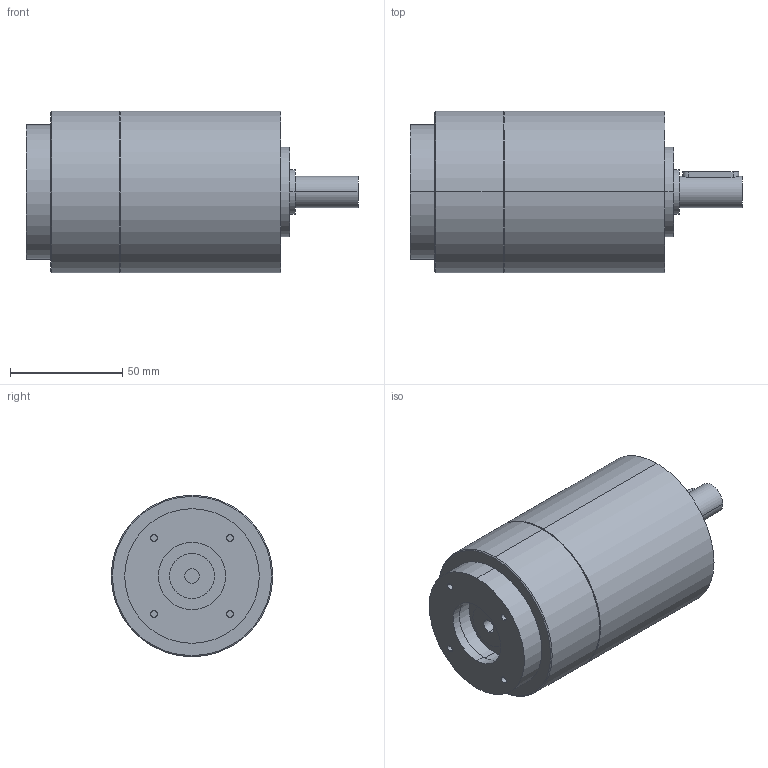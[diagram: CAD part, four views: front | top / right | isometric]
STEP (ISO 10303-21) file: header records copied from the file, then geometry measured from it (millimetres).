
FILE_DESCRIPTION(('CoCreate Modeling STEP Export'),'2;1');
FILE_NAME('GPT75_ig-9-12-16-20-25-28-35-40-50-70-100_14_B14T_6.35_P29.stp','2014-08-27T13:19:36',(''),(''),'CoCreate Modeling STEP processor for AP214 (Solid Model)','CoCreate Modeling 16.00C 25-Feb-2009 (C) Parametric Technology GmbH','');
FILE_SCHEMA(('AUTOMOTIVE_DESIGN { 1 0 10303 214 1 1 1 1 }'));
Length unit declared in the file: millimetre
Products named in the file (2): GPT75_ig-9-12-16-20-25-28-35-40-50-70-100_14_B14T_6.35_P29
Assembly tree (1 placements, depth 2):
  GPT75_ig-9-12-16-20-25-28-35-40-50-70-100_14_B14T_6.35_P29
    GPT75_ig-9-12-16-20-25-28-35-40-50-70-100_14_B14T_6.35_P29
Bounding box: 148 x 72 x 72 mm (x, y, z)
Volume: 449050.5 mm3; surface area: 38880.3 mm2
Topology: 1 solids, 1 shells, 67 faces, 149 edges, 102 vertices
Faces by surface type: cylinder 40, plane 23, cone 4
Entity records: 1948 total; most frequent: CARTESIAN_POINT 625, ORIENTED_EDGE 298, DIRECTION 220, EDGE_CURVE 149, VERTEX_POINT 102, AXIS2_PLACEMENT_3D 85, EDGE_LOOP 85, FACE_OUTER_BOUND 67
